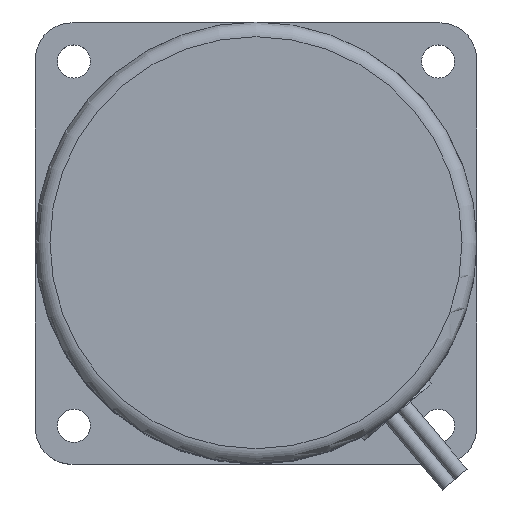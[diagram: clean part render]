
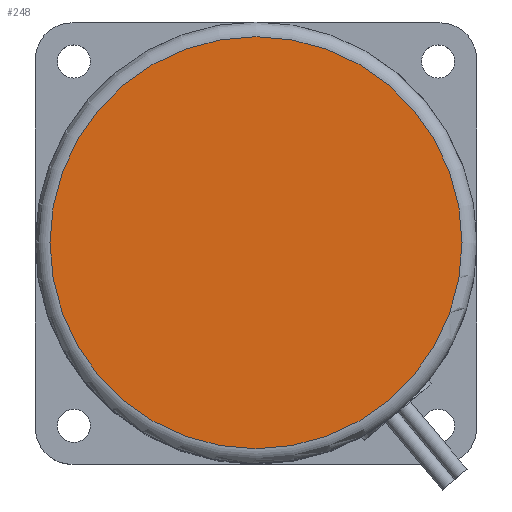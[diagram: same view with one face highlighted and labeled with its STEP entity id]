
A CAD part, top view. The second image highlights one B-rep face of the part: STEP entity #248.
In plain terms, the highlighted planar face has unit normal (0, 0, 1).
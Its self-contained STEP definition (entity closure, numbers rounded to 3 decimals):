
#151=CARTESIAN_POINT('',(28.0,0.,16.0));
#152=VERTEX_POINT('',#151);
#153=CARTESIAN_POINT('',(0.0,0.0,16.0));
#154=DIRECTION('',(0.0,0.0,-1.0));
#155=DIRECTION('',(-1.0,0.0,0.0));
#156=AXIS2_PLACEMENT_3D('',#153,#154,#155);
#157=CIRCLE('',#156,28.0);
#158=EDGE_CURVE('',#152,#152,#157,.T.);
#240=CARTESIAN_POINT('',(0.0,0.0,16.0));
#241=DIRECTION('',(0.0,0.0,-1.0));
#242=DIRECTION('',(-1.0,0.0,0.0));
#243=AXIS2_PLACEMENT_3D('',#240,#241,#242);
#244=PLANE('',#243);
#245=ORIENTED_EDGE('',*,*,#158,.F.);
#246=EDGE_LOOP('',(#245));
#247=FACE_OUTER_BOUND('',#246,.T.);
#248=ADVANCED_FACE('',(#247),#244,.F.);
